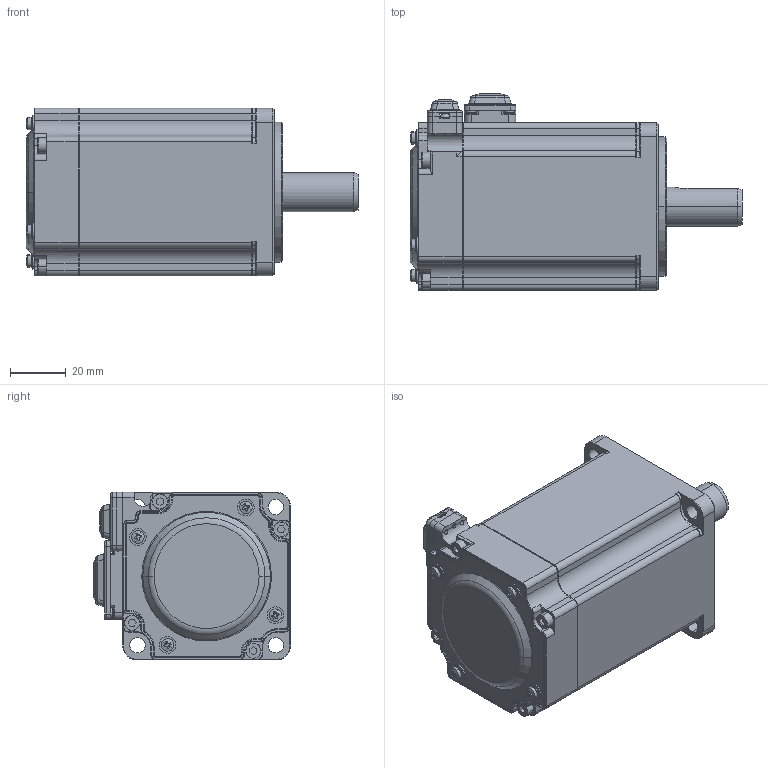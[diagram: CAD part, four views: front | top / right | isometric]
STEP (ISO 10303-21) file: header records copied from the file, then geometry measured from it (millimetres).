
FILE_DESCRIPTION (( 'STEP AP214' ), '1' );
FILE_NAME ('400W眻脣萇儂.STEP', '2024-10-13T07:36:18', ( 'Windows 蚚誧' ), ( 'Organization' ), 'SwSTEP 2.0', 'SolidWorks 2021', '' );
FILE_SCHEMA (( 'AUTOMOTIVE_DESIGN' ));
Length unit declared in the file: millimetre
Products named in the file (1): 400W眻脣萇儂
Bounding box: 118.8 x 70.5 x 60.1 mm (x, y, z)
Surface area: 34448 mm2 (no closed solid volume)
Topology: 0 solids, 38 shells, 894 faces, 2551 edges, 1665 vertices
Faces by surface type: plane 338, cylinder 329, torus 94, cone 91, bspline 34, sphere 8
Entity records: 42070 total; most frequent: CARTESIAN_POINT 9000, DIRECTION 5141, ORIENTED_EDGE 4474, EDGE_CURVE 2547, AXIS2_PLACEMENT_3D 2012, VERTEX_POINT 1665, CIRCLE 1151, LINE 1117
